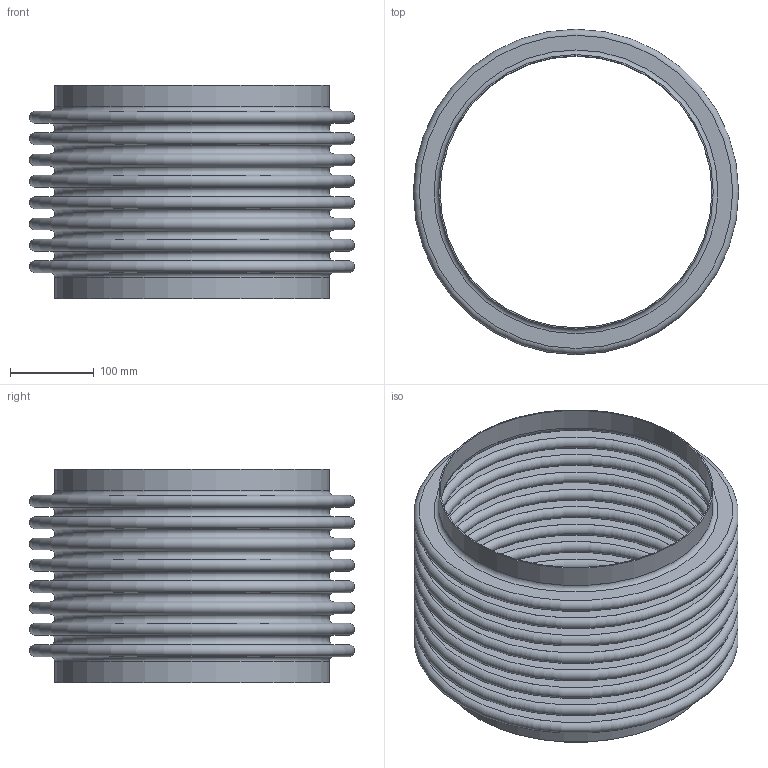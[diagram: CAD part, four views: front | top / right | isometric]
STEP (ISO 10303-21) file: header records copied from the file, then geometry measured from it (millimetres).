
FILE_DESCRIPTION(/* description */ ('STOCK BELLOWS: U.S-12-8-150S, 12.750 I.D., 15.250 O.D., 1 PLY, 16 GA (0.060 THICK), 8 CONS., 1.000 PITCH, 1.000 TANGENT. '),/* implementation_level */ '2;1');
FILE_NAME(/* name */ 'STOCK BELLOW - US-12-8-150S.stp',/* time_stamp */ '2026-07-21T13:03:28-05:00',/* author */ ('KennethB'),/* organization */ (''),/* preprocessor_version */ 'ST-DEVELOPER v20.1',/* originating_system */ 'Autodesk Inventor 2026',/* authorisation */ '');
FILE_SCHEMA (('AUTOMOTIVE_DESIGN { 1 0 10303 214 3 1 1 }'));
Length unit declared in the file: inch
Products named in the file (1): STOCK BELLOW - US-12-8-150S
Bounding box: 387.35 x 387.35 x 254 mm (x, y, z)
Volume: 1099981.7 mm3; surface area: 1452892.4 mm2
Topology: 3 solids, 3 shells, 76 faces, 114 edges, 77 vertices
Faces by surface type: plane 38, torus 34, cylinder 4
Full cylindrical faces by diameter (mm): 323.85 x2, 326.898 x2
Entity records: 1814 total; most frequent: DIRECTION 378, CARTESIAN_POINT 268, ORIENTED_EDGE 228, AXIS2_PLACEMENT_3D 187, EDGE_LOOP 114, EDGE_CURVE 114, CIRCLE 110, FACE_OUTER_BOUND 76
